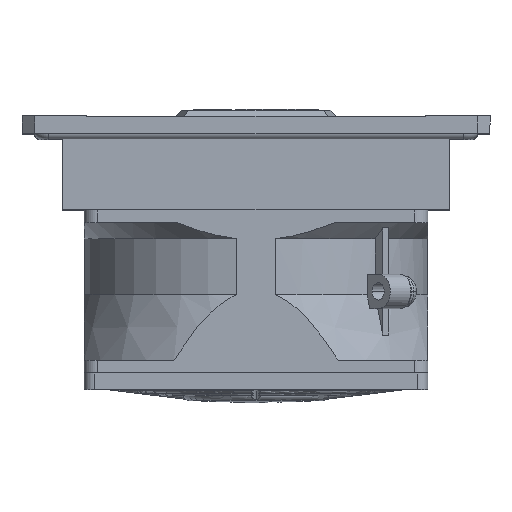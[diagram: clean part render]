
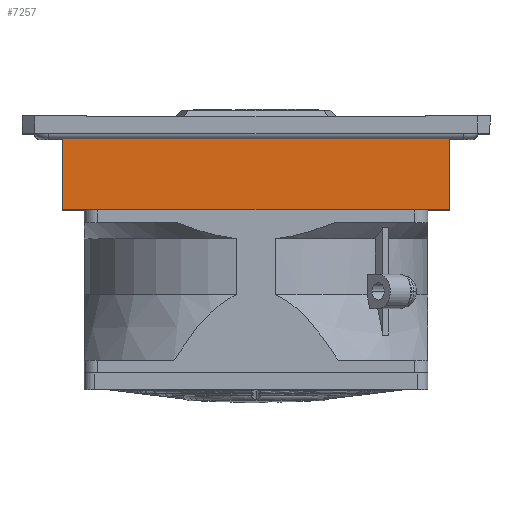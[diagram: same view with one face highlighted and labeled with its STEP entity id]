
A CAD part, top view. The second image highlights one B-rep face of the part: STEP entity #7257.
In plain terms, the highlighted planar face has unit normal (0, 0, 1).
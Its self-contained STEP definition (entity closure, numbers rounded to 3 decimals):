
#4409 = EDGE_CURVE ( 'NONE', #4410, #4412, #36673, .T. ) ;
#4410 = VERTEX_POINT ( 'NONE', #36669 ) ;
#4412 = VERTEX_POINT ( 'NONE', #36668 ) ;
#7257 = ADVANCED_FACE ( 'NONE', ( #40890 ), #40889, .T. ) ;
#7259 = EDGE_LOOP ( 'NONE', ( #7263, #7265, #7324, #7334 ) ) ;
#7263 = ORIENTED_EDGE ( 'NONE', *, *, #4409, .T. ) ;
#7265 = ORIENTED_EDGE ( 'NONE', *, *, #7319, .T. ) ;
#7319 = EDGE_CURVE ( 'NONE', #4412, #7320, #40958, .T. ) ;
#7320 = VERTEX_POINT ( 'NONE', #40954 ) ;
#7324 = ORIENTED_EDGE ( 'NONE', *, *, #7326, .F. ) ;
#7326 = EDGE_CURVE ( 'NONE', #7330, #7320, #40947, .T. ) ;
#7330 = VERTEX_POINT ( 'NONE', #40943 ) ;
#7334 = ORIENTED_EDGE ( 'NONE', *, *, #7338, .F. ) ;
#7338 = EDGE_CURVE ( 'NONE', #4410, #7330, #41002, .T. ) ;
#36668 = CARTESIAN_POINT ( 'NONE',  ( -45., 17.75, 45. ) ) ;
#36669 = CARTESIAN_POINT ( 'NONE',  ( 45., 17.75, 45. ) ) ;
#36670 = DIRECTION ( 'NONE',  ( -1., 0., 0. ) ) ;
#36671 = VECTOR ( 'NONE', #36670, 1000. ) ;
#36672 = CARTESIAN_POINT ( 'NONE',  ( -45., 17.75, 45. ) ) ;
#36673 = LINE ( 'NONE', #36672, #36671 ) ;
#40885 = DIRECTION ( 'NONE',  ( 1., 0., 0. ) ) ;
#40886 = DIRECTION ( 'NONE',  ( 0., 0., 1. ) ) ;
#40887 = CARTESIAN_POINT ( 'NONE',  ( -45., 168.242, 45. ) ) ;
#40888 = AXIS2_PLACEMENT_3D ( 'NONE', #40887, #40886, #40885 ) ;
#40889 = PLANE ( 'NONE',  #40888 ) ;
#40890 = FACE_OUTER_BOUND ( 'NONE', #7259, .T. ) ;
#40943 = CARTESIAN_POINT ( 'NONE',  ( 45., 0., 45. ) ) ;
#40944 = DIRECTION ( 'NONE',  ( -1., 0., 0. ) ) ;
#40945 = VECTOR ( 'NONE', #40944, 1000. ) ;
#40946 = CARTESIAN_POINT ( 'NONE',  ( -45., 0., 45. ) ) ;
#40947 = LINE ( 'NONE', #40946, #40945 ) ;
#40954 = CARTESIAN_POINT ( 'NONE',  ( -45., 0., 45. ) ) ;
#40955 = DIRECTION ( 'NONE',  ( 0., -1., 0. ) ) ;
#40956 = VECTOR ( 'NONE', #40955, 1000. ) ;
#40957 = CARTESIAN_POINT ( 'NONE',  ( -45., 168.242, 45. ) ) ;
#40958 = LINE ( 'NONE', #40957, #40956 ) ;
#40999 = DIRECTION ( 'NONE',  ( 0., -1., 0. ) ) ;
#41000 = VECTOR ( 'NONE', #40999, 1000. ) ;
#41001 = CARTESIAN_POINT ( 'NONE',  ( 45., 168.242, 45. ) ) ;
#41002 = LINE ( 'NONE', #41001, #41000 ) ;
